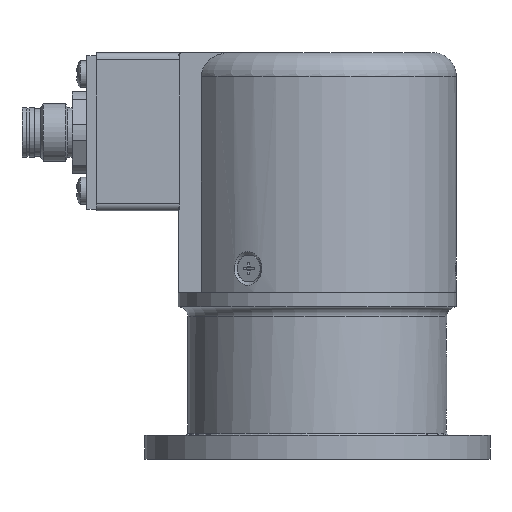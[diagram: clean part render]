
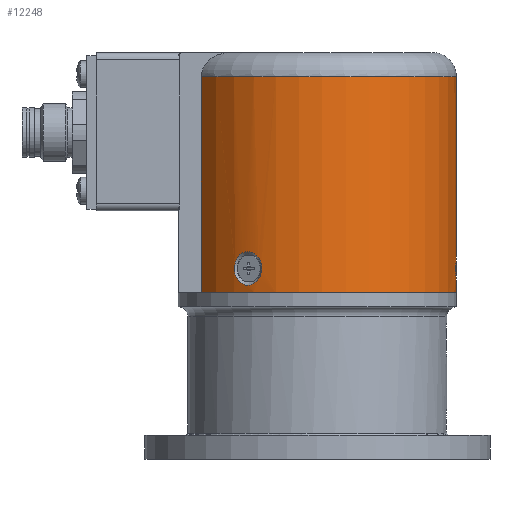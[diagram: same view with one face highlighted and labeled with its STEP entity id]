
A CAD part, front view. The second image highlights one B-rep face of the part: STEP entity #12248.
In plain terms, the highlighted cylindrical face has radius 29 mm (diameter 58 mm), a partial arc.
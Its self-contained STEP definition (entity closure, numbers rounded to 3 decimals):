
#390=B_SPLINE_CURVE_WITH_KNOTS('',3,(#26172,#26173,#26174,#26175,#26176,
#26177,#26178,#26179,#26180,#26181,#26182,#26183,#26184,#26185),
 .UNSPECIFIED.,.T.,.F.,(1,1,1,1,1,1,1,1,1,1,1,1,1,1,1,1,1,1),(-0.005,
-0.004,-0.003,0.,0.003,0.005,
0.007,0.008,0.009,0.011,
0.013,0.016,0.017,0.019,
0.021,0.024,0.027,0.028),
 .UNSPECIFIED.);
#392=B_SPLINE_CURVE_WITH_KNOTS('',3,(#26382,#26383,#26384,#26385,#26386,
#26387,#26388,#26389,#26390,#26391,#26392,#26393,#26394,#26395),
 .UNSPECIFIED.,.T.,.F.,(1,1,1,1,1,1,1,1,1,1,1,1,1,1,1,1,1,1),(-0.005,
-0.004,-0.003,0.,0.003,0.005,
0.007,0.008,0.009,0.011,
0.013,0.016,0.017,0.019,
0.021,0.024,0.027,0.028),
 .UNSPECIFIED.);
#393=B_SPLINE_CURVE_WITH_KNOTS('',3,(#26397,#26398,#26399,#26400,#26401,
#26402,#26403,#26404,#26405,#26406,#26407,#26408,#26409,#26410),
 .UNSPECIFIED.,.T.,.F.,(1,1,1,1,1,1,1,1,1,1,1,1,1,1,1,1,1,1),(-0.005,
-0.004,-0.003,0.,0.003,0.005,
0.007,0.008,0.009,0.011,
0.013,0.016,0.017,0.019,
0.021,0.024,0.027,0.028),
 .UNSPECIFIED.);
#769=LINE('',#26377,#1487);
#770=LINE('',#26379,#1488);
#1487=VECTOR('',#16941,1000.);
#1488=VECTOR('',#16942,1000.);
#3730=ORIENTED_EDGE('',*,*,#6389,.T.);
#3731=ORIENTED_EDGE('',*,*,#6285,.F.);
#3732=ORIENTED_EDGE('',*,*,#6390,.F.);
#3733=ORIENTED_EDGE('',*,*,#6391,.T.);
#3734=ORIENTED_EDGE('',*,*,#6300,.F.);
#3735=ORIENTED_EDGE('',*,*,#6392,.F.);
#3736=ORIENTED_EDGE('',*,*,#6393,.F.);
#6285=EDGE_CURVE('',#7773,#7775,#8924,.T.);
#6300=EDGE_CURVE('',#7788,#7788,#390,.T.);
#6389=EDGE_CURVE('',#7848,#7775,#769,.T.);
#6390=EDGE_CURVE('',#7849,#7773,#770,.T.);
#6391=EDGE_CURVE('',#7849,#7848,#8941,.T.);
#6392=EDGE_CURVE('',#7850,#7850,#392,.T.);
#6393=EDGE_CURVE('',#7851,#7851,#393,.T.);
#7773=VERTEX_POINT('',#26131);
#7775=VERTEX_POINT('',#26134);
#7788=VERTEX_POINT('',#26186);
#7848=VERTEX_POINT('',#26378);
#7849=VERTEX_POINT('',#26380);
#7850=VERTEX_POINT('',#26396);
#7851=VERTEX_POINT('',#26411);
#8924=CIRCLE('',#14423,29.);
#8941=CIRCLE('',#14478,29.);
#9708=EDGE_LOOP('',(#3730,#3731,#3732,#3733));
#9709=EDGE_LOOP('',(#3734));
#9710=EDGE_LOOP('',(#3735));
#9711=EDGE_LOOP('',(#3736));
#10932=FACE_BOUND('',#9708,.T.);
#10933=FACE_BOUND('',#9709,.T.);
#10934=FACE_BOUND('',#9710,.T.);
#10935=FACE_BOUND('',#9711,.T.);
#11733=CYLINDRICAL_SURFACE('',#14477,29.);
#12248=ADVANCED_FACE('',(#10932,#10933,#10934,#10935),#11733,.T.);
#14423=AXIS2_PLACEMENT_3D('',#26133,#16747,#16748);
#14477=AXIS2_PLACEMENT_3D('',#26376,#16939,#16940);
#14478=AXIS2_PLACEMENT_3D('',#26381,#16943,#16944);
#16747=DIRECTION('',(0.,0.,1.));
#16748=DIRECTION('',(0.,-1.,0.));
#16939=DIRECTION('',(0.,0.,1.));
#16940=DIRECTION('',(0.,-1.,0.));
#16941=DIRECTION('',(0.,0.,1.));
#16942=DIRECTION('',(0.,0.,1.));
#16943=DIRECTION('',(0.,0.,1.));
#16944=DIRECTION('',(0.,-1.,0.));
#26131=CARTESIAN_POINT('',(-24.187,-16.,50.8));
#26133=CARTESIAN_POINT('',(0.,0.,50.8));
#26134=CARTESIAN_POINT('',(-24.187,16.,50.8));
#26172=CARTESIAN_POINT('',(29.023,0.491,7.106));
#26173=CARTESIAN_POINT('',(28.897,2.678,8.152));
#26174=CARTESIAN_POINT('',(28.766,3.644,10.853));
#26175=CARTESIAN_POINT('',(28.879,2.78,13.065));
#26176=CARTESIAN_POINT('',(28.98,1.3,14.121));
#26177=CARTESIAN_POINT('',(29.011,-0.039,14.398));
#26178=CARTESIAN_POINT('',(28.976,-1.376,14.087));
#26179=CARTESIAN_POINT('',(28.873,-2.831,12.993));
#26180=CARTESIAN_POINT('',(28.767,-3.646,10.755));
#26181=CARTESIAN_POINT('',(28.879,-2.782,8.537));
#26182=CARTESIAN_POINT('',(28.98,-1.302,7.48));
#26183=CARTESIAN_POINT('',(29.023,0.491,7.106));
#26184=CARTESIAN_POINT('',(28.897,2.678,8.152));
#26185=CARTESIAN_POINT('',(28.766,3.644,10.853));
#26186=CARTESIAN_POINT('',(28.9,2.402,8.393));
#26376=CARTESIAN_POINT('',(0.,0.,5.69));
#26377=CARTESIAN_POINT('',(-24.187,16.,5.69));
#26378=CARTESIAN_POINT('',(-24.187,16.,5.8));
#26379=CARTESIAN_POINT('',(-24.187,-16.,5.69));
#26380=CARTESIAN_POINT('',(-24.187,-16.,5.8));
#26381=CARTESIAN_POINT('',(0.,0.,5.8));
#26382=CARTESIAN_POINT('',(-14.936,24.889,7.106));
#26383=CARTESIAN_POINT('',(-16.768,23.686,8.152));
#26384=CARTESIAN_POINT('',(-17.539,23.09,10.853));
#26385=CARTESIAN_POINT('',(-16.847,23.62,13.065));
#26386=CARTESIAN_POINT('',(-15.616,24.447,14.121));
#26387=CARTESIAN_POINT('',(-14.471,25.144,14.398));
#26388=CARTESIAN_POINT('',(-13.296,25.782,14.087));
#26389=CARTESIAN_POINT('',(-11.985,26.42,12.993));
#26390=CARTESIAN_POINT('',(-11.226,26.736,10.755));
#26391=CARTESIAN_POINT('',(-12.03,26.401,8.537));
#26392=CARTESIAN_POINT('',(-13.362,25.748,7.48));
#26393=CARTESIAN_POINT('',(-14.936,24.889,7.106));
#26394=CARTESIAN_POINT('',(-16.768,23.686,8.152));
#26395=CARTESIAN_POINT('',(-17.539,23.09,10.853));
#26396=CARTESIAN_POINT('',(-16.53,23.828,8.393));
#26397=CARTESIAN_POINT('',(-14.086,-25.38,7.106));
#26398=CARTESIAN_POINT('',(-12.129,-26.365,8.152));
#26399=CARTESIAN_POINT('',(-11.227,-26.734,10.853));
#26400=CARTESIAN_POINT('',(-12.032,-26.4,13.065));
#26401=CARTESIAN_POINT('',(-13.364,-25.748,14.121));
#26402=CARTESIAN_POINT('',(-14.539,-25.105,14.398));
#26403=CARTESIAN_POINT('',(-15.68,-24.406,14.087));
#26404=CARTESIAN_POINT('',(-16.888,-23.589,12.993));
#26405=CARTESIAN_POINT('',(-17.541,-23.09,10.755));
#26406=CARTESIAN_POINT('',(-16.848,-23.619,8.537));
#26407=CARTESIAN_POINT('',(-15.617,-24.446,7.48));
#26408=CARTESIAN_POINT('',(-14.086,-25.38,7.106));
#26409=CARTESIAN_POINT('',(-12.129,-26.365,8.152));
#26410=CARTESIAN_POINT('',(-11.227,-26.734,10.853));
#26411=CARTESIAN_POINT('',(-12.37,-26.229,8.393));
